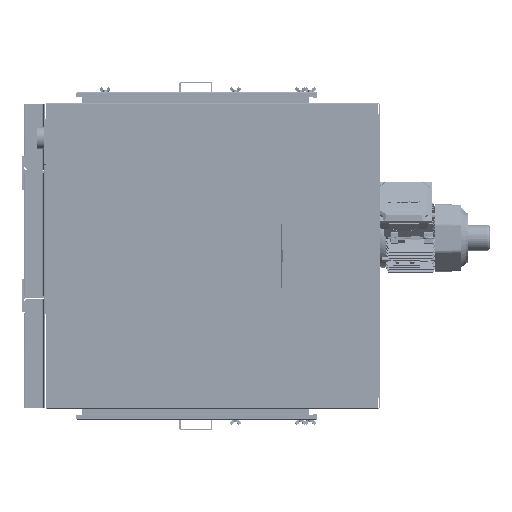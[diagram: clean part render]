
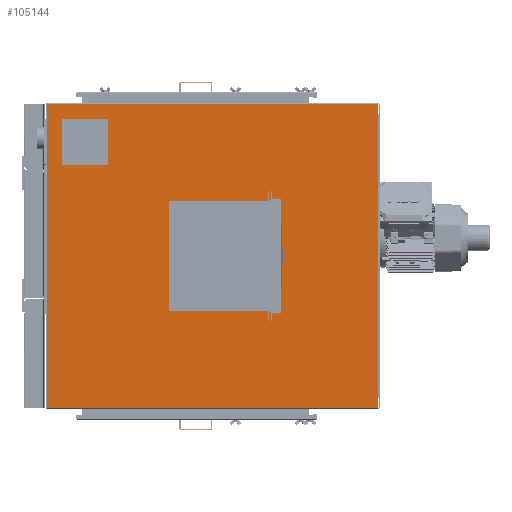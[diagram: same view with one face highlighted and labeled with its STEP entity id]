
A CAD part, left-side view. The second image highlights one B-rep face of the part: STEP entity #105144.
In plain terms, the highlighted planar face has unit normal (-1, 0, 0).
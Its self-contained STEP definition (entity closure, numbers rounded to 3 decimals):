
#4240=FACE_BOUND('',#16105,.T.);
#4241=FACE_BOUND('',#16106,.T.);
#6140=PLANE('',#112238);
#9690=FACE_OUTER_BOUND('',#16104,.T.);
#16104=EDGE_LOOP('',(#73674,#73675,#73676,#73677));
#16105=EDGE_LOOP('',(#73678,#73679,#73680,#73681,#73682,#73683,#73684,#73685));
#16106=EDGE_LOOP('',(#73686,#73687,#73688,#73689,#73690,#73691,#73692,#73693,
#73694,#73695,#73696,#73697));
#23331=LINE('',#155150,#31564);
#23347=LINE('',#155191,#31580);
#23353=LINE('',#155218,#31586);
#23370=LINE('',#155257,#31603);
#24009=LINE('',#156888,#32242);
#24013=LINE('',#156897,#32246);
#24018=LINE('',#156907,#32251);
#24042=LINE('',#157014,#32275);
#24047=LINE('',#157029,#32280);
#24049=LINE('',#157037,#32282);
#24053=LINE('',#157049,#32286);
#24057=LINE('',#157073,#32290);
#24059=LINE('',#157079,#32292);
#24062=LINE('',#157084,#32295);
#24073=LINE('',#157109,#32306);
#24074=LINE('',#157113,#32307);
#24075=LINE('',#157115,#32308);
#24076=LINE('',#157117,#32309);
#24077=LINE('',#157118,#32310);
#24078=LINE('',#157119,#32311);
#31564=VECTOR('',#124883,1398.);
#31580=VECTOR('',#124917,1524.);
#31586=VECTOR('',#124941,1398.);
#31603=VECTOR('',#124974,1524.);
#32242=VECTOR('',#126627,472.);
#32246=VECTOR('',#126633,472.);
#32251=VECTOR('',#126640,30.);
#32275=VECTOR('',#126758,200.);
#32280=VECTOR('',#126771,200.);
#32282=VECTOR('',#126781,200.);
#32286=VECTOR('',#126793,200.);
#32290=VECTOR('',#126825,30.);
#32292=VECTOR('',#126829,342.);
#32295=VECTOR('',#126834,3.);
#32306=VECTOR('',#126859,3.);
#32307=VECTOR('',#126862,3.);
#32308=VECTOR('',#126863,342.);
#32309=VECTOR('',#126864,3.);
#32310=VECTOR('',#126865,30.);
#32311=VECTOR('',#126866,30.);
#39248=CIRCLE('',#112204,5.);
#39250=CIRCLE('',#112208,5.);
#39252=CIRCLE('',#112212,5.);
#39254=CIRCLE('',#112216,5.);
#44075=VERTEX_POINT('',#155142);
#44078=VERTEX_POINT('',#155148);
#44089=VERTEX_POINT('',#155174);
#44106=VERTEX_POINT('',#155216);
#44601=VERTEX_POINT('',#156886);
#44602=VERTEX_POINT('',#156887);
#44605=VERTEX_POINT('',#156895);
#44606=VERTEX_POINT('',#156896);
#44610=VERTEX_POINT('',#156905);
#44644=VERTEX_POINT('',#157008);
#44646=VERTEX_POINT('',#157012);
#44647=VERTEX_POINT('',#157016);
#44648=VERTEX_POINT('',#157017);
#44652=VERTEX_POINT('',#157026);
#44653=VERTEX_POINT('',#157034);
#44656=VERTEX_POINT('',#157041);
#44657=VERTEX_POINT('',#157046);
#44663=VERTEX_POINT('',#157069);
#44665=VERTEX_POINT('',#157075);
#44667=VERTEX_POINT('',#157078);
#44676=VERTEX_POINT('',#157111);
#44677=VERTEX_POINT('',#157112);
#44678=VERTEX_POINT('',#157114);
#44679=VERTEX_POINT('',#157116);
#54637=EDGE_CURVE('',#44075,#44078,#23331,.T.);
#54657=EDGE_CURVE('',#44078,#44089,#23347,.T.);
#54670=EDGE_CURVE('',#44089,#44106,#23353,.T.);
#54690=EDGE_CURVE('',#44106,#44075,#23370,.T.);
#55494=EDGE_CURVE('',#44601,#44602,#24009,.T.);
#55498=EDGE_CURVE('',#44605,#44606,#24013,.T.);
#55503=EDGE_CURVE('',#44606,#44610,#24018,.T.);
#55549=EDGE_CURVE('',#44644,#44646,#24042,.T.);
#55550=EDGE_CURVE('',#44647,#44648,#39248,.T.);
#55556=EDGE_CURVE('',#44652,#44647,#24047,.T.);
#55557=EDGE_CURVE('',#44646,#44652,#39250,.T.);
#55560=EDGE_CURVE('',#44648,#44653,#24049,.T.);
#55563=EDGE_CURVE('',#44653,#44656,#39252,.T.);
#55566=EDGE_CURVE('',#44656,#44657,#24053,.T.);
#55568=EDGE_CURVE('',#44657,#44644,#39254,.T.);
#55576=EDGE_CURVE('',#44663,#44601,#24057,.T.);
#55578=EDGE_CURVE('',#44667,#44665,#24059,.T.);
#55581=EDGE_CURVE('',#44665,#44663,#24062,.T.);
#55594=EDGE_CURVE('',#44610,#44667,#24073,.T.);
#55595=EDGE_CURVE('',#44676,#44677,#24074,.T.);
#55596=EDGE_CURVE('',#44677,#44678,#24075,.T.);
#55597=EDGE_CURVE('',#44678,#44679,#24076,.T.);
#55598=EDGE_CURVE('',#44679,#44605,#24077,.T.);
#55599=EDGE_CURVE('',#44602,#44676,#24078,.T.);
#73674=ORIENTED_EDGE('',*,*,#54690,.T.);
#73675=ORIENTED_EDGE('',*,*,#54637,.T.);
#73676=ORIENTED_EDGE('',*,*,#54657,.T.);
#73677=ORIENTED_EDGE('',*,*,#54670,.T.);
#73678=ORIENTED_EDGE('',*,*,#55557,.T.);
#73679=ORIENTED_EDGE('',*,*,#55556,.T.);
#73680=ORIENTED_EDGE('',*,*,#55550,.T.);
#73681=ORIENTED_EDGE('',*,*,#55560,.T.);
#73682=ORIENTED_EDGE('',*,*,#55563,.T.);
#73683=ORIENTED_EDGE('',*,*,#55566,.T.);
#73684=ORIENTED_EDGE('',*,*,#55568,.T.);
#73685=ORIENTED_EDGE('',*,*,#55549,.T.);
#73686=ORIENTED_EDGE('',*,*,#55595,.T.);
#73687=ORIENTED_EDGE('',*,*,#55596,.T.);
#73688=ORIENTED_EDGE('',*,*,#55597,.T.);
#73689=ORIENTED_EDGE('',*,*,#55598,.T.);
#73690=ORIENTED_EDGE('',*,*,#55498,.T.);
#73691=ORIENTED_EDGE('',*,*,#55503,.T.);
#73692=ORIENTED_EDGE('',*,*,#55594,.T.);
#73693=ORIENTED_EDGE('',*,*,#55578,.T.);
#73694=ORIENTED_EDGE('',*,*,#55581,.T.);
#73695=ORIENTED_EDGE('',*,*,#55576,.T.);
#73696=ORIENTED_EDGE('',*,*,#55494,.T.);
#73697=ORIENTED_EDGE('',*,*,#55599,.T.);
#105144=ADVANCED_FACE('',(#9690,#4240,#4241),#6140,.F.);
#112204=AXIS2_PLACEMENT_3D('',#157018,#126761,#126762);
#112208=AXIS2_PLACEMENT_3D('',#157031,#126774,#126775);
#112212=AXIS2_PLACEMENT_3D('',#157043,#126786,#126787);
#112216=AXIS2_PLACEMENT_3D('',#157052,#126797,#126798);
#112238=AXIS2_PLACEMENT_3D('',#157110,#126860,#126861);
#124883=DIRECTION('',(0.,0.,-1.));
#124917=DIRECTION('',(0.,-1.,0.));
#124941=DIRECTION('',(0.,0.,1.));
#124974=DIRECTION('',(0.,1.,0.));
#126627=DIRECTION('',(0.,0.,1.));
#126633=DIRECTION('',(0.,0.,-1.));
#126640=DIRECTION('',(0.,1.,0.));
#126758=DIRECTION('',(0.,0.,1.));
#126761=DIRECTION('center_axis',(1.,0.,0.));
#126762=DIRECTION('ref_axis',(0.,-0.707,
0.707));
#126771=DIRECTION('',(0.,-1.,0.));
#126774=DIRECTION('center_axis',(1.,0.,0.));
#126775=DIRECTION('ref_axis',(0.,0.707,0.707));
#126781=DIRECTION('',(0.,0.,-1.));
#126786=DIRECTION('center_axis',(1.,0.,0.));
#126787=DIRECTION('ref_axis',(0.,-0.707,
-0.707));
#126793=DIRECTION('',(0.,1.,0.));
#126797=DIRECTION('center_axis',(1.,0.,0.));
#126798=DIRECTION('ref_axis',(0.,0.707,-0.707));
#126825=DIRECTION('',(0.,1.,0.));
#126829=DIRECTION('',(0.,1.,0.));
#126834=DIRECTION('',(0.,0.,1.));
#126859=DIRECTION('',(0.,0.,-1.));
#126860=DIRECTION('center_axis',(1.,0.,0.));
#126861=DIRECTION('ref_axis',(0.,1.,0.));
#126862=DIRECTION('',(0.,0.,1.));
#126863=DIRECTION('',(0.,-1.,0.));
#126864=DIRECTION('',(0.,0.,-1.));
#126865=DIRECTION('',(0.,-1.,0.));
#126866=DIRECTION('',(0.,-1.,0.));
#155142=CARTESIAN_POINT('',(-1943.466,563.325,1123.613));
#155148=CARTESIAN_POINT('',(-1943.466,563.325,-274.387));
#155150=CARTESIAN_POINT('',(-1943.466,563.325,1125.613));
#155174=CARTESIAN_POINT('',(-1943.466,-960.675,-274.387));
#155191=CARTESIAN_POINT('',(-1943.466,182.325,-274.387));
#155216=CARTESIAN_POINT('',(-1943.466,-960.675,1123.613));
#155218=CARTESIAN_POINT('',(-1943.466,-960.675,-276.387));
#155257=CARTESIAN_POINT('',(-1943.466,-579.675,1123.613));
#156886=CARTESIAN_POINT('',(-1943.466,-8.675,188.613));
#156887=CARTESIAN_POINT('',(-1943.466,-8.675,660.613));
#156888=CARTESIAN_POINT('',(-1943.466,-8.675,542.613));
#156895=CARTESIAN_POINT('',(-1943.466,-410.675,660.613));
#156896=CARTESIAN_POINT('',(-1943.466,-410.675,188.613));
#156897=CARTESIAN_POINT('',(-1943.466,-410.675,306.613));
#156905=CARTESIAN_POINT('',(-1943.466,-380.675,188.613));
#156907=CARTESIAN_POINT('',(-1943.466,-103.675,188.613));
#157008=CARTESIAN_POINT('',(-1943.466,495.525,848.813));
#157012=CARTESIAN_POINT('',(-1943.466,495.525,1048.813));
#157014=CARTESIAN_POINT('',(-1943.466,495.525,739.213));
#157016=CARTESIAN_POINT('',(-1943.466,290.525,1053.813));
#157017=CARTESIAN_POINT('',(-1943.466,285.525,1048.813));
#157018=CARTESIAN_POINT('Origin',(-1943.466,290.525,1048.813));
#157026=CARTESIAN_POINT('',(-1943.466,490.525,1053.813));
#157029=CARTESIAN_POINT('',(-1943.466,43.425,1053.813));
#157031=CARTESIAN_POINT('Origin',(-1943.466,490.525,1048.813));
#157034=CARTESIAN_POINT('',(-1943.466,285.525,848.813));
#157037=CARTESIAN_POINT('',(-1943.466,285.525,634.213));
#157041=CARTESIAN_POINT('',(-1943.466,290.525,843.813));
#157043=CARTESIAN_POINT('Origin',(-1943.466,290.525,848.813));
#157046=CARTESIAN_POINT('',(-1943.466,490.525,843.813));
#157049=CARTESIAN_POINT('',(-1943.466,148.425,843.813));
#157052=CARTESIAN_POINT('Origin',(-1943.466,490.525,848.813));
#157069=CARTESIAN_POINT('',(-1943.466,-38.675,188.613));
#157073=CARTESIAN_POINT('',(-1943.466,-103.675,188.613));
#157075=CARTESIAN_POINT('',(-1943.466,-38.675,185.613));
#157078=CARTESIAN_POINT('',(-1943.466,-380.675,185.613));
#157079=CARTESIAN_POINT('',(-1943.466,-289.675,185.613));
#157084=CARTESIAN_POINT('',(-1943.466,-38.675,305.113));
#157109=CARTESIAN_POINT('',(-1943.466,-380.675,324.113));
#157110=CARTESIAN_POINT('Origin',(-1943.466,-198.675,424.613));
#157111=CARTESIAN_POINT('',(-1943.466,-38.675,660.613));
#157112=CARTESIAN_POINT('',(-1943.466,-38.675,663.613));
#157113=CARTESIAN_POINT('',(-1943.466,-38.675,525.113));
#157114=CARTESIAN_POINT('',(-1943.466,-380.675,663.613));
#157115=CARTESIAN_POINT('',(-1943.466,-118.675,663.613));
#157116=CARTESIAN_POINT('',(-1943.466,-380.675,660.613));
#157117=CARTESIAN_POINT('',(-1943.466,-380.675,544.113));
#157118=CARTESIAN_POINT('',(-1943.466,-304.675,660.613));
#157119=CARTESIAN_POINT('',(-1943.466,-304.675,660.613));
